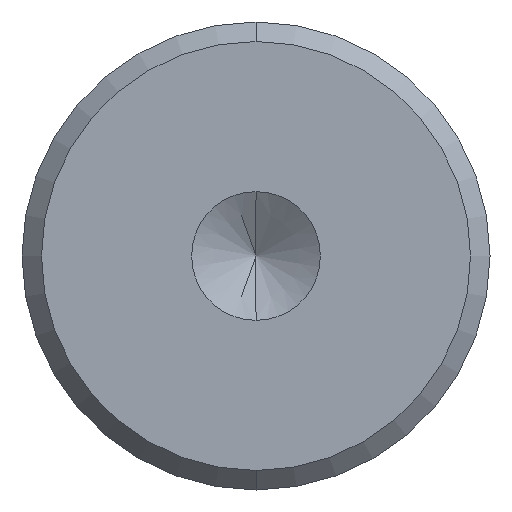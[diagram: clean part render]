
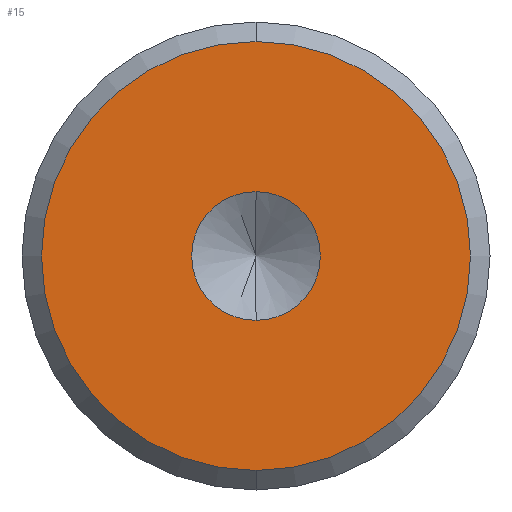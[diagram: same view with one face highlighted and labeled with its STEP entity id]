
A CAD part, front view. The second image highlights one B-rep face of the part: STEP entity #15.
In plain terms, the highlighted planar face has unit normal (0, -1, 0).
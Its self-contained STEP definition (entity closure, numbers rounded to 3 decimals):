
#4 = CIRCLE ( 'NONE', #242, 5.5 ) ;
#15 = ADVANCED_FACE ( 'NONE', ( #23, #292 ), #499, .F. ) ;
#23 = FACE_BOUND ( 'NONE', #208, .T. ) ;
#25 = CARTESIAN_POINT ( 'NONE',  ( 0., 0., 0. ) ) ;
#32 = AXIS2_PLACEMENT_3D ( 'NONE', #399, #51, #206 ) ;
#33 = CARTESIAN_POINT ( 'NONE',  ( 0., 0., -5.5 ) ) ;
#47 = EDGE_LOOP ( 'NONE', ( #247, #133 ) ) ;
#51 = DIRECTION ( 'NONE',  ( 0., -1., 0. ) ) ;
#56 = AXIS2_PLACEMENT_3D ( 'NONE', #160, #79, #344 ) ;
#64 = EDGE_CURVE ( 'NONE', #108, #411, #226, .T. ) ;
#77 = DIRECTION ( 'NONE',  ( 0., 1., 0. ) ) ;
#79 = DIRECTION ( 'NONE',  ( 0., -1., 0. ) ) ;
#102 = DIRECTION ( 'NONE',  ( 0., -1., 0. ) ) ;
#106 = CARTESIAN_POINT ( 'NONE',  ( 0., 0., -1.65 ) ) ;
#107 = DIRECTION ( 'NONE',  ( 0., 0., 1. ) ) ;
#108 = VERTEX_POINT ( 'NONE', #118 ) ;
#110 = CARTESIAN_POINT ( 'NONE',  ( 0., 0., 0. ) ) ;
#114 = ORIENTED_EDGE ( 'NONE', *, *, #64, .F. ) ;
#118 = CARTESIAN_POINT ( 'NONE',  ( 0., 0., 1.65 ) ) ;
#123 = CARTESIAN_POINT ( 'NONE',  ( 0., 0., 0. ) ) ;
#133 = ORIENTED_EDGE ( 'NONE', *, *, #358, .T. ) ;
#160 = CARTESIAN_POINT ( 'NONE',  ( 0., 0., 0. ) ) ;
#179 = ORIENTED_EDGE ( 'NONE', *, *, #457, .F. ) ;
#183 = DIRECTION ( 'NONE',  ( 0., 0., 1. ) ) ;
#184 = EDGE_CURVE ( 'NONE', #394, #215, #199, .T. ) ;
#197 = DIRECTION ( 'NONE',  ( 0., 0., -1. ) ) ;
#199 = CIRCLE ( 'NONE', #32, 5.5 ) ;
#206 = DIRECTION ( 'NONE',  ( 0., 0., 1. ) ) ;
#208 = EDGE_LOOP ( 'NONE', ( #179, #114 ) ) ;
#215 = VERTEX_POINT ( 'NONE', #33 ) ;
#226 = CIRCLE ( 'NONE', #286, 1.65 ) ;
#242 = AXIS2_PLACEMENT_3D ( 'NONE', #25, #102, #183 ) ;
#247 = ORIENTED_EDGE ( 'NONE', *, *, #184, .T. ) ;
#286 = AXIS2_PLACEMENT_3D ( 'NONE', #123, #349, #197 ) ;
#292 = FACE_OUTER_BOUND ( 'NONE', #47, .T. ) ;
#307 = CIRCLE ( 'NONE', #56, 1.65 ) ;
#320 = CARTESIAN_POINT ( 'NONE',  ( 0., 0., 5.5 ) ) ;
#344 = DIRECTION ( 'NONE',  ( 0., 0., -1. ) ) ;
#349 = DIRECTION ( 'NONE',  ( 0., -1., 0. ) ) ;
#358 = EDGE_CURVE ( 'NONE', #215, #394, #4, .T. ) ;
#394 = VERTEX_POINT ( 'NONE', #320 ) ;
#397 = AXIS2_PLACEMENT_3D ( 'NONE', #110, #77, #107 ) ;
#399 = CARTESIAN_POINT ( 'NONE',  ( 0., 0., 0. ) ) ;
#411 = VERTEX_POINT ( 'NONE', #106 ) ;
#457 = EDGE_CURVE ( 'NONE', #411, #108, #307, .T. ) ;
#499 = PLANE ( 'NONE',  #397 ) ;
